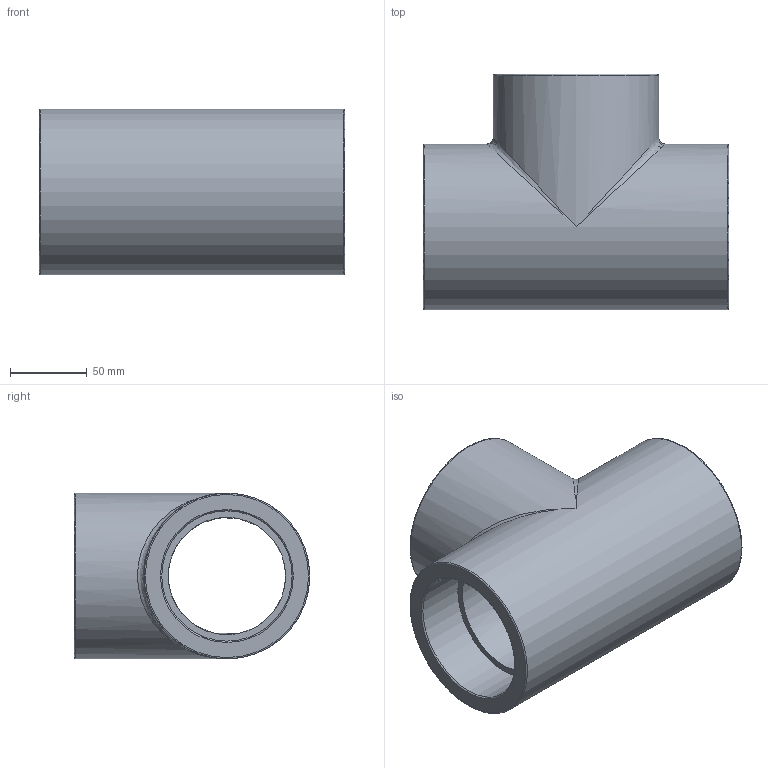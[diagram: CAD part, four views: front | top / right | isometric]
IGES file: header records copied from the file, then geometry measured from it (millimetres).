
Global section: file name: 050401030.ipt; native system: Autodesk Inventor 2015; preprocessor: unknown; author: KIM; date: 20171207.164519; units: millimetre
Bounding box: 199 x 153.5 x 108 mm (x, y, z)
Volume: 987572 mm3; surface area: 153499.3 mm2
Topology: 1 solids, 1 shells, 20 faces, 59 edges, 40 vertices
Faces by surface type: revolution 10, plane 6, bspline 2, cylinder 2
Full cylindrical faces by diameter (mm): 108 x2
